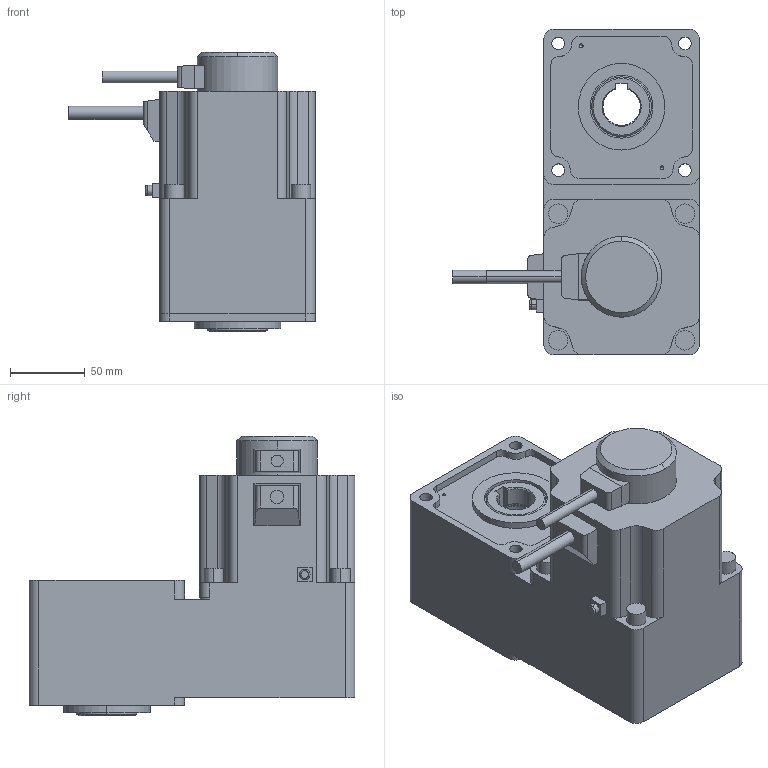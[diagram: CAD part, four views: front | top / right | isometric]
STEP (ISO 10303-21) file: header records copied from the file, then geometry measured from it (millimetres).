
FILE_DESCRIPTION (( 'STEP AP203' ), '1' );
FILE_NAME ('C257.step', '2022-01-26T23:52:40', ( 'om' ), ( 'Hewlett-Packard Company' ), 'SwSTEP 2.0', 'SolidWorks 2013', '' );
FILE_SCHEMA (( 'CONFIG_CONTROL_DESIGN' ));
Length unit declared in the file: millimetre
Products named in the file (1): C257
Bounding box: 165 x 218 x 187 mm (x, y, z)
Volume: 2333609.9 mm3; surface area: 216890.2 mm2
Topology: 1 solids, 12 shells, 371 faces, 924 edges, 600 vertices
Faces by surface type: cylinder 196, plane 109, cone 35, bspline 31
Entity records: 11924 total; most frequent: CARTESIAN_POINT 2844, DIRECTION 2008, ORIENTED_EDGE 1816, EDGE_CURVE 908, AXIS2_PLACEMENT_3D 811, VERTEX_POINT 600, CIRCLE 470, EDGE_LOOP 434
